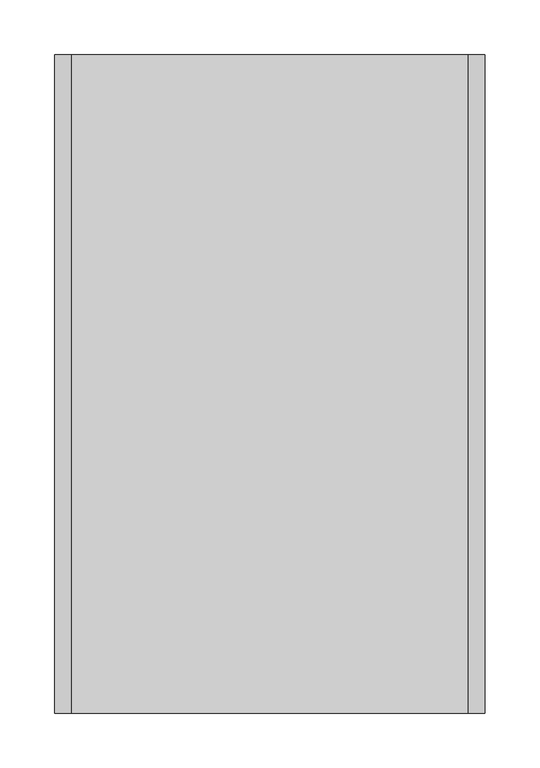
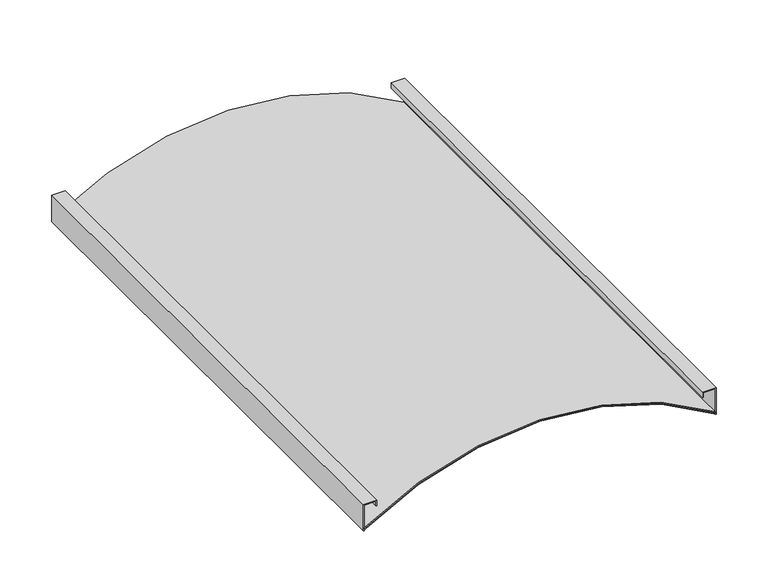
"""IFC4 building model written with IfcOpenShell, lengths in millimetres: proxy geometry, durlum_S7_DOMUS_ALT_panel : durlum_S7_DOMUS_panel_wall_length_cut."""

from ifc_helpers import new_model, si_unit, point, frame, frame_2d, origin, place, context, project, spatial, polyline, circle_curve, trimmed, segment, composite_curve, outline, extrude, source, transform, mapped, element, save


def generic_models_6aff8082(model_context):
    return source(origin(), model_context, "Body", "SweptSolid", [
        extrude(outline(composite_curve([segment(trimmed(circle_curve(frame_2d((-290.1333333, 0.0)), 351.1333333), [point((1.876286, -195.0))], [point((1.876286, 195.0))], True, "CARTESIAN"), True, "CONTINUOUS"), segment(polyline([(1.876286, 195.0), (3.0779974, 195.0)]), True, "CONTINUOUS"), segment(trimmed(circle_curve(frame_2d((-290.1333333, 0.0)), 352.1333333), [point((3.0779974, 195.0))], [point((3.0779974, -195.0))], False, "CARTESIAN"), True, "CONTINUOUS"), segment(polyline([(3.0779974, -195.0), (1.876286, -195.0)]), True, "CONTINUOUS")], self_intersect=False)), frame((0.0, -299.75, 0.0), z_axis=(0.0, 1.0, 0.0), x_axis=(0.0, 0.0, 1.0)), (0.0, 0.0, 1.0), 599.5),
        extrude(outline(polyline([(31.0, -196.0), (0.0, -196.0), (0.0, -195.0), (30.0, -195.0), (30.0, -182.0), (24.5, -182.0), (24.5, -181.0), (31.0, -181.0), (31.0, -196.0)])), frame((0.0, -299.75, 0.0), z_axis=(0.0, 1.0, 0.0), x_axis=(0.0, 0.0, 1.0)), (0.0, 0.0, 1.0), 599.5),
        extrude(outline(polyline([(31.0, 196.0), (31.0, 181.0), (24.5, 181.0), (24.5, 182.0), (30.0, 182.0), (30.0, 195.0), (0.0, 195.0), (0.0, 196.0), (31.0, 196.0)])), frame((0.0, -299.75, 0.0), z_axis=(0.0, 1.0, 0.0), x_axis=(0.0, 0.0, 1.0)), (0.0, 0.0, 1.0), 599.5),
        extrude(outline(composite_curve([segment(polyline([(1.2060182, -196.0), (0.0, -196.0)]), True, "CONTINUOUS"), segment(trimmed(circle_curve(frame_2d((-290.1333333, 0.0)), 350.1333333), [point((0.0, -196.0))], [point((0.0, 196.0))], True, "CARTESIAN"), True, "CONTINUOUS"), segment(polyline([(0.0, 196.0), (1.2060182, 196.0)]), True, "CONTINUOUS"), segment(trimmed(circle_curve(frame_2d((-290.1333333, 0.0)), 351.1333333), [point((1.2060182, 196.0))], [point((1.2060182, -196.0))], False, "CARTESIAN"), True, "CONTINUOUS")], self_intersect=False)), frame((0.0, -299.75, 0.0), z_axis=(0.0, 1.0, 0.0), x_axis=(0.0, 0.0, 1.0)), (0.0, 0.0, 1.0), 599.5),
    ])


if __name__ == "__main__":
    model = new_model("IFC4")
    model_context = context("Model", 3, world=origin())
    ifc_project = project(units=[si_unit("LENGTHUNIT", "METRE", prefix="MILLI")], contexts=[model_context])
    site = spatial("IfcSite", under=ifc_project)
    building = spatial("IfcBuilding", under=site)
    placement = place(None, origin())
    generic_models_shape = generic_models_6aff8082(model_context)
    element("IfcBuildingElementProxy", 1, Name="durlum_S7_DOMUS_ALT_panel : durlum_S7_DOMUS_panel_wall_length_cut", ObjectType="durlum_S7_DOMUS_ALT_panel : durlum_S7_DOMUS_panel_wall_length_cut", at=placement, inside=building, context=model_context, shape_type="MappedRepresentation", body=[
        mapped(generic_models_shape, transform((0.0, 0.0, 0.0), x_axis=(1.0, 0.0, 0.0), y_axis=(0.0, 1.0, 0.0), z_axis=(0.0, 0.0, 1.0))),
    ])
    save(model, "model.ifc")
